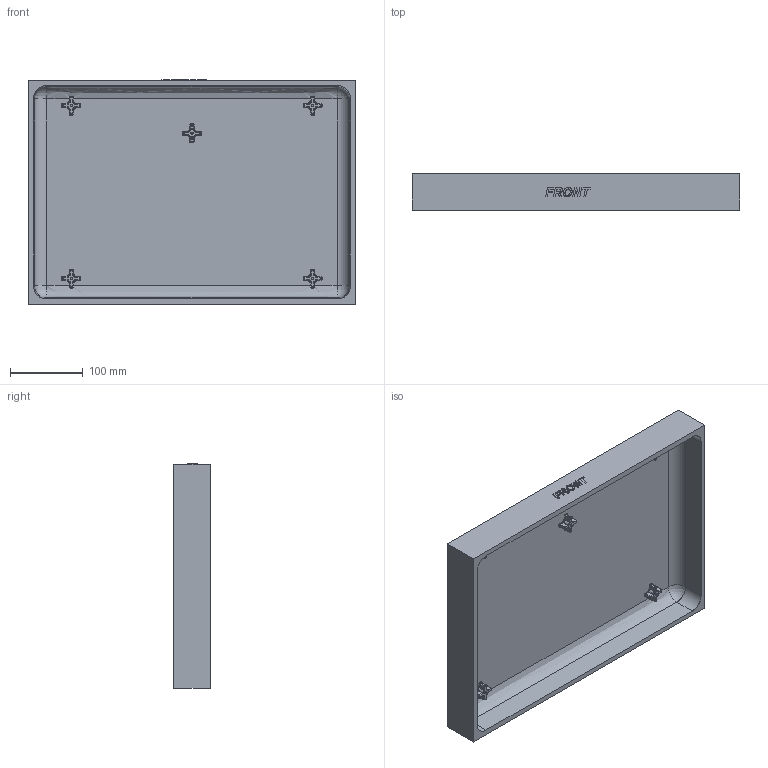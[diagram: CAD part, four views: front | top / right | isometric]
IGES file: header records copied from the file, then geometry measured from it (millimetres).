
Start section: SolidWorks IGES file using analytic representation for surfaces
Global section: file name: C:\temp\EU files dimensions 12-14-15\EU case files in pdf and DXF format\1500 Peli Case Top.IGS; native system: SolidWorks 2014; preprocessor: SolidWorks 2014; author: mhakami; date: 160110.162922; units: inch
Bounding box: 450.21 x 50.8 x 308.35 mm (x, y, z)
Surface area: 411270.5 mm2 (no closed solid volume)
Topology: 0 solids, 0 shells, 611 faces, 4988 edges, 4988 vertices
Faces by surface type: bspline 380, revolution 231
